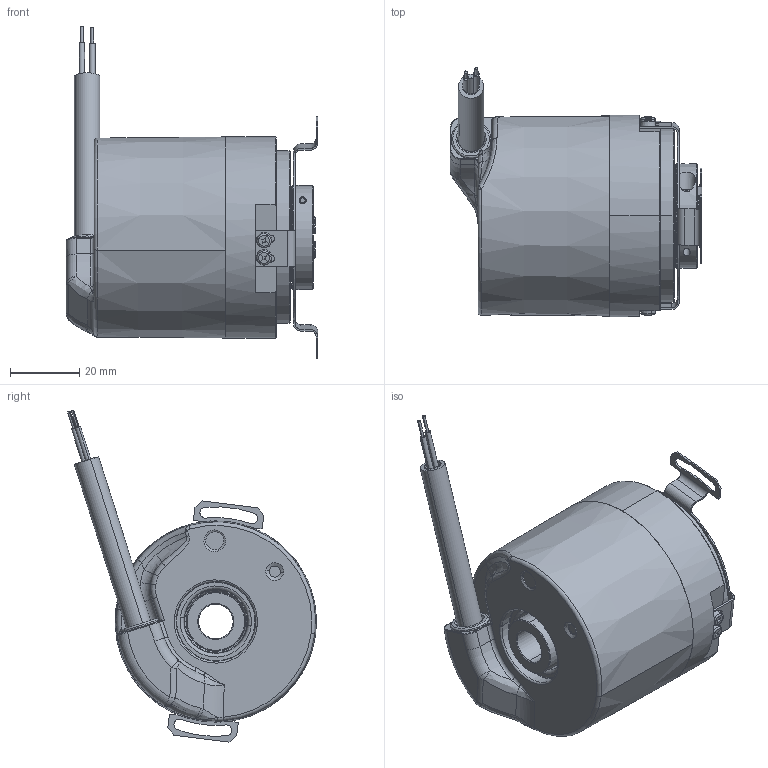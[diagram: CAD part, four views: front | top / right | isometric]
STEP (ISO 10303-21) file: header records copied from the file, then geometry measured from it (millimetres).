
FILE_DESCRIPTION (( 'STEP AP203' ), '1' );
FILE_NAME ('8.F5883.532E.XXXX.STEP', '2013-07-25T06:25:12', ( 'LauferA' ), ( 'Microsoft' ), 'SwSTEP 2.0', 'SolidWorks 2012', '' );
FILE_SCHEMA (( 'CONFIG_CONTROL_DESIGN' ));
Length unit declared in the file: millimetre
Products named in the file (1): 8.F5883.532E.XXXX
Bounding box: 72.47 x 71.73 x 95.66 mm (x, y, z)
Surface area: 57714.5 mm2 (no closed solid volume)
Topology: 0 solids, 33 shells, 2203 faces, 5498 edges, 3369 vertices
Faces by surface type: plane 793, cylinder 621, bspline 361, cone 200, torus 174, sphere 54
Entity records: 77786 total; most frequent: CARTESIAN_POINT 29256, ORIENTED_EDGE 10736, DIRECTION 9314, EDGE_CURVE 5378, AXIS2_PLACEMENT_3D 3664, VERTEX_POINT 3333, EDGE_LOOP 2399, FACE_OUTER_BOUND 2203
